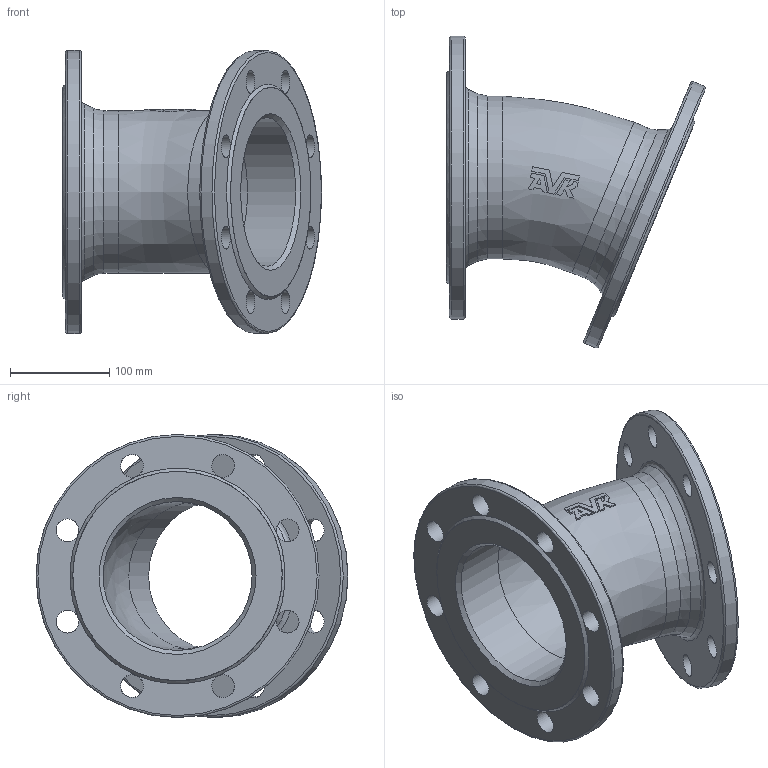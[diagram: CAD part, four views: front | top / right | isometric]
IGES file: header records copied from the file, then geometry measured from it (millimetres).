
Start section: SolidWorks IGES file using analytic representation for surfaces
Global section: file name: \\avksan2\techshare\PBM outline export from Enovia\O_712_0210_DN150_1X_REV01.igs; native system: SolidWorks 2022; preprocessor: SolidWorks 2022; author: pbm; date: 240815.140548; units: millimetre
Bounding box: 260.85 x 314.1 x 285 mm (x, y, z)
Surface area: 395698.1 mm2 (no closed solid volume)
Topology: 0 solids, 0 shells, 85 faces, 433 edges, 379 vertices
Faces by surface type: revolution 44, bspline 41
